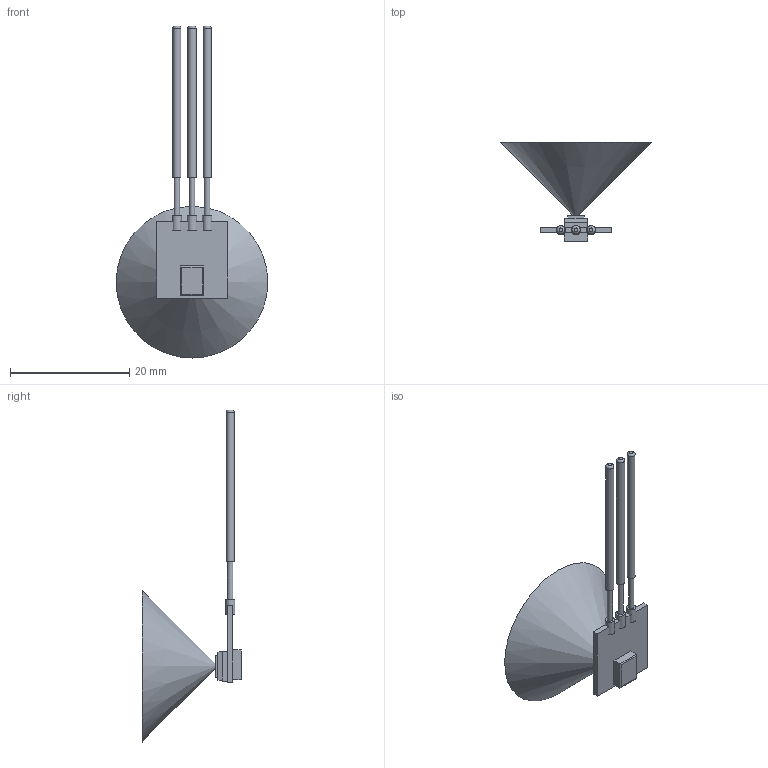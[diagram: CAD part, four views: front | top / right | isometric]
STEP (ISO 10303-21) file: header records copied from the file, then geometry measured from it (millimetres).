
FILE_DESCRIPTION(/* description */ (''),/* implementation_level */ '2;1');
FILE_NAME(/* name */ 'C:/Users/sorto/Desktop/SF_VERT_LOS.step',/* time_stamp */ '2020-10-05T14:37:15-05:00',/* author */ (''),/* organization */ (''),/* preprocessor_version */ 'ST-DEVELOPER v18.1',/* originating_system */ 'Autodesk Translation Framework v9.3.0.1241',/* authorisation */ '');
FILE_SCHEMA (('AUTOMOTIVE_DESIGN { 1 0 10303 214 3 1 1 }'));
Length unit declared in the file: inch
Products named in the file (1): SF_VERT
Bounding box: 25.4 x 16.69 x 55.62 mm (x, y, z)
Volume: 2484.3 mm3; surface area: 2166.3 mm2
Topology: 11 solids, 11 shells, 61 faces, 100 edges, 63 vertices
Faces by surface type: plane 48, cylinder 9, bspline 3, cone 1
Full cylindrical faces by diameter (mm): 0.914 x3, 1.372 x3, 1.575 x3
Entity records: 1533 total; most frequent: CARTESIAN_POINT 302, DIRECTION 242, ORIENTED_EDGE 198, EDGE_CURVE 99, AXIS2_PLACEMENT_3D 84, LINE 74, VECTOR 74, EDGE_LOOP 64
